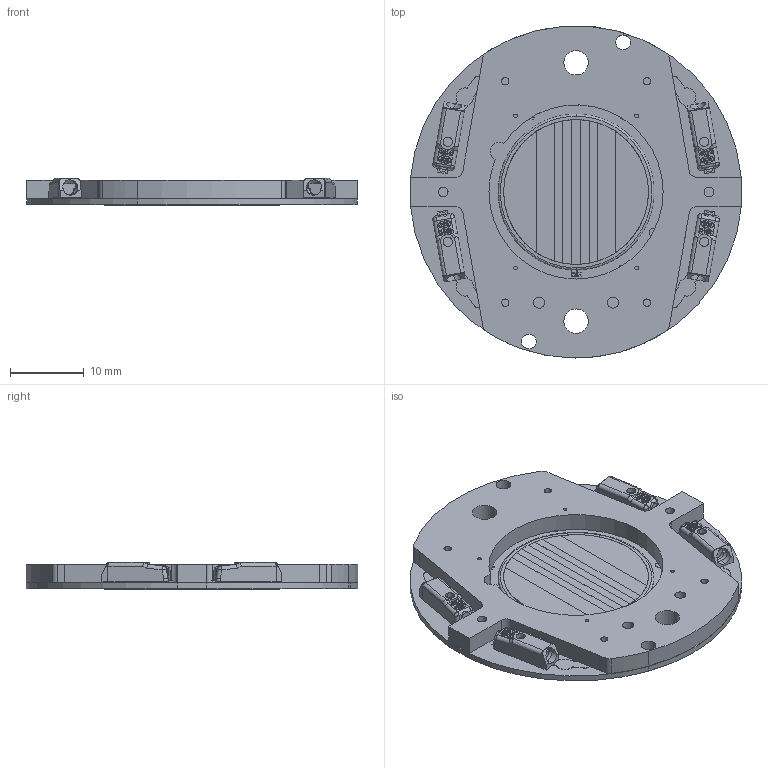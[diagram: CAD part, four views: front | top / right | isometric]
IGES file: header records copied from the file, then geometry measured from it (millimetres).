
Start section: SolidWorks IGES file using analytic representation for surfaces
Global section: file name: C:\Users\jiaqichen\Desktop\DW TW Holder-CoB\New folder\NTW 18 Holder-CoB Assembly.IGS; native system: SolidWorks 2020; preprocessor: SolidWorks 2020; author: jiaqichen; date: 200814.175657; units: millimetre
Bounding box: 44.84 x 44.98 x 3.69 mm (x, y, z)
Volume: 3651.7 mm3; surface area: 6134.8 mm2
Topology: 1 solids, 1 shells, 1606 faces, 4406 edges, 2906 vertices
Faces by surface type: plane 968, revolution 558, bspline 80
